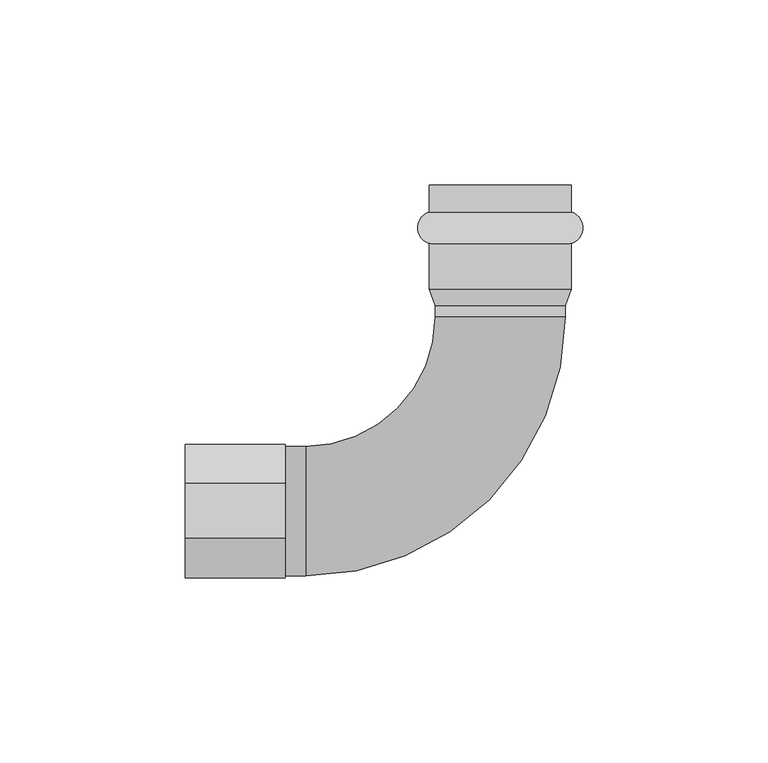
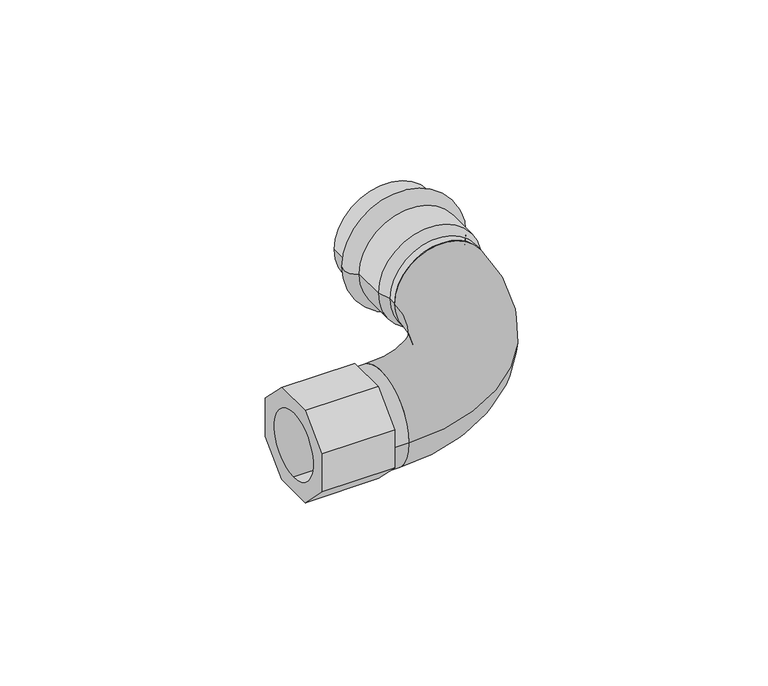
"""IFC4 building model written with IfcOpenShell, lengths in millimetres: valve geometry, Отвод_90°_с_переходом_на_внутреннюю_резьбу : Отвод_90°_с_переходом_на_внутреннюю_резьбу."""

import ifcopenshell
import ifcopenshell.guid

model = None  # the IFC model being written
_history = None  # IfcOwnerHistory: only IFC2X3 demands one
_inside = {}  # id of a spatial element -> (the spatial element, [elements in it])
_under = {}  # id of a project, library or spatial element -> (it, [spatial elements below it])
_declared = {}  # id of a project -> (the project, [libraries it declares])
_typed = {}  # id of a type object -> (the type object, [elements of that type])
_made_of = {}  # id of a material, layer set ... -> (it, [elements and type objects made of it])


def new_model(schema):
    """Start an empty IFC model of exactly this schema.

    Asked for "IFC4X3", IfcOpenShell would pick the latest addendum, in which some entities
    have other attributes; the version numbers below select the first issue.
    IFC2X3 requires an IfcOwnerHistory on every rooted entity: one is made here for all.
    """
    global model, _history
    if schema == "IFC4X3":
        model = ifcopenshell.file(schema_version=(4, 3, 0, 0))
    else:
        model = ifcopenshell.file(schema=schema)
    _inside.clear()
    _under.clear()
    _declared.clear()
    _typed.clear()
    _made_of.clear()
    _history = None
    if model.schema == "IFC2X3":
        org = make("IfcOrganization", Name="unknown")
        user = make(
            "IfcPersonAndOrganization",
            ThePerson=make("IfcPerson", FamilyName="unknown"),
            TheOrganization=org,
        )
        app = make(
            "IfcApplication",
            ApplicationDeveloper=org,
            Version="unknown",
            ApplicationFullName="unknown",
            ApplicationIdentifier="unknown",
        )
        _history = make(
            "IfcOwnerHistory",
            OwningUser=user,
            OwningApplication=app,
            ChangeAction="ADDED",
            CreationDate=0,
        )
    return model


def make(cls, **values):
    """One entity of the class cls with the attributes given. An attribute that is None is left unset."""
    return model.create_entity(
        cls, **{name: value for name, value in values.items() if value is not None}
    )


def rooted(cls, **values):
    """An entity with a GlobalId (a new one), such as an element, a storey or a relation."""
    return make(cls, GlobalId=ifcopenshell.guid.new(), OwnerHistory=_history, **values)


def si_unit(unit_type, name, prefix=None):
    """IfcSIUnit, for example si_unit("LENGTHUNIT", "METRE", prefix="MILLI")."""
    return make("IfcSIUnit", UnitType=unit_type, Prefix=prefix, Name=name)


def assignment(units):
    """IfcUnitAssignment: the units of a project."""
    return None if units is None else make("IfcUnitAssignment", Units=units)


def point(xyz):
    """IfcCartesianPoint."""
    return None if xyz is None else make("IfcCartesianPoint", Coordinates=xyz)


def direction(xyz):
    """IfcDirection."""
    return None if xyz is None else make("IfcDirection", DirectionRatios=xyz)


def frame(location, z_axis=None, x_axis=None):
    """IfcAxis2Placement3D, a coordinate frame: its origin and axes. An axis left out is left unset."""
    return make(
        "IfcAxis2Placement3D",
        Location=point(location),
        Axis=direction(z_axis),
        RefDirection=direction(x_axis),
    )


def frame_2d(location, x_axis=None):
    """IfcAxis2Placement2D, a coordinate frame in the plane: its origin and x axis."""
    return make(
        "IfcAxis2Placement2D", Location=point(location), RefDirection=direction(x_axis)
    )


def origin():
    """The frame at (0, 0, 0) with its axes left unset."""
    return frame((0.0, 0.0, 0.0))


def origin_2d():
    """The frame at (0, 0) in the plane with its x axis left unset."""
    return frame_2d((0.0, 0.0))


def place(relative_to, where):
    """IfcLocalPlacement: puts the frame where relative to a parent placement (None: the world)."""
    return make(
        "IfcLocalPlacement", PlacementRelTo=relative_to, RelativePlacement=where
    )


def context(
    kind, dimensions, precision=None, world=None, true_north=None, identifier=None
):
    """IfcGeometricRepresentationContext, for example the 3D "Model" context."""
    return make(
        "IfcGeometricRepresentationContext",
        ContextIdentifier=identifier,
        ContextType=kind,
        CoordinateSpaceDimension=dimensions,
        Precision=precision,
        WorldCoordinateSystem=world,
        TrueNorth=true_north,
    )


def project(units=None, contexts=None):
    """IfcProject with its units and contexts."""
    return rooted(
        "IfcProject",
        Name="project",
        RepresentationContexts=contexts,
        UnitsInContext=assignment(units),
    )


def spatial(cls, under=None, at=None, **own):
    """A site, building, storey or space (cls), placed at a placement, below another one or the project."""
    s = rooted(cls, ObjectPlacement=at, **own)
    if under is not None:
        _under.setdefault(under.id(), (under, []))[1].append(s)
    return s


def polyline(points):
    """IfcPolyline through the points."""
    return make("IfcPolyline", Points=[point(p) for p in points])


def circle_curve(where, radius):
    """IfcCircle in the frame where."""
    return make("IfcCircle", Position=where, Radius=radius)


def ellipse_curve(where, semi_axis1, semi_axis2):
    """IfcEllipse in the frame where."""
    return make(
        "IfcEllipse", Position=where, SemiAxis1=semi_axis1, SemiAxis2=semi_axis2
    )


def trimmed(basis, trim1, trim2, sense, master):
    """IfcTrimmedCurve: the piece of a basis curve between two trims."""
    return make(
        "IfcTrimmedCurve",
        BasisCurve=basis,
        Trim1=trim1,
        Trim2=trim2,
        SenseAgreement=sense,
        MasterRepresentation=master,
    )


def segment(curve, same_sense, transition):
    """IfcCompositeCurveSegment."""
    return make(
        "IfcCompositeCurveSegment",
        Transition=transition,
        SameSense=same_sense,
        ParentCurve=curve,
    )


def composite_curve(segments, self_intersect=None):
    """IfcCompositeCurve: segments joined end to end."""
    return make("IfcCompositeCurve", Segments=segments, SelfIntersect=self_intersect)


def outline(outer, holes=None, kind="AREA"):
    """IfcArbitraryClosedProfileDef: a profile drawn as a closed curve; with holes, ...WithVoids."""
    if holes is None:
        return make("IfcArbitraryClosedProfileDef", ProfileType=kind, OuterCurve=outer)
    return make(
        "IfcArbitraryProfileDefWithVoids",
        ProfileType=kind,
        OuterCurve=outer,
        InnerCurves=holes,
    )


def extrude(swept, where, along, depth):
    """IfcExtrudedAreaSolid: the profile swept, set in the frame where, extruded along a direction by depth."""
    return make(
        "IfcExtrudedAreaSolid",
        SweptArea=swept,
        Position=where,
        ExtrudedDirection=direction(along),
        Depth=depth,
    )


def shape(context_of_items, identifier, shape_type, items):
    """IfcShapeRepresentation: the items that make up one representation, for example the "Body"."""
    return make(
        "IfcShapeRepresentation",
        ContextOfItems=context_of_items,
        RepresentationIdentifier=identifier,
        RepresentationType=shape_type,
        Items=items,
    )


def source(mapping_origin, context_of_items, identifier, shape_type, items):
    """IfcRepresentationMap: a shape defined once, which mapped items show again and again."""
    return make(
        "IfcRepresentationMap",
        MappingOrigin=mapping_origin,
        MappedRepresentation=shape(context_of_items, identifier, shape_type, items),
    )


def transform(
    local_origin,
    x_axis=None,
    y_axis=None,
    z_axis=None,
    scale=None,
    scale2=None,
    scale3=None,
    uniform=True,
):
    """IfcCartesianTransformationOperator3D, or its non-uniform kind. x_axis, y_axis, z_axis: its Axis1, 2, 3."""
    if uniform:
        return make(
            "IfcCartesianTransformationOperator3D",
            Axis1=direction(x_axis),
            Axis2=direction(y_axis),
            LocalOrigin=point(local_origin),
            Scale=scale,
            Axis3=direction(z_axis),
        )
    return make(
        "IfcCartesianTransformationOperator3DnonUniform",
        Axis1=direction(x_axis),
        Axis2=direction(y_axis),
        LocalOrigin=point(local_origin),
        Scale=scale,
        Axis3=direction(z_axis),
        Scale2=scale2,
        Scale3=scale3,
    )


def mapped(mapping_source, mapping_target):
    """IfcMappedItem: shows the shape of a source again, moved by a transform."""
    return make(
        "IfcMappedItem", MappingSource=mapping_source, MappingTarget=mapping_target
    )


def made_of(thing, what):
    """Note that an element or type object is made of a material, layer set ...; save() writes the relation."""
    if what is not None:
        _made_of.setdefault(what.id(), (what, []))[1].append(thing)
    return thing


def element(
    cls,
    number,
    at=None,
    inside=None,
    cuts=None,
    type_object=None,
    material=None,
    context=None,
    identifier="Body",
    shape_type=None,
    held_by="IfcProductDefinitionShape",
    body=None,
    shapes=None,
    **own,
):
    """One element of the class cls, such as IfcWall. Its Tag is "e" and its number.

    at: its placement. inside: the storey or other place that contains it. cuts: it is an
    opening in that element (IfcRelVoidsElement). A single representation is given by context,
    identifier, shape_type and body (its items); several are given by shapes. held_by: the class
    of the entity that holds the representations. save() writes the other relations.
    """
    e = rooted(cls, Tag="e%d" % number, ObjectPlacement=at, **own)
    if body is not None:
        shapes = [shape(context, identifier, shape_type, body)]
    if shapes is not None:
        e.Representation = make(held_by, Representations=shapes)
    if inside is not None:
        _inside.setdefault(inside.id(), (inside, []))[1].append(e)
    if cuts is not None:
        rooted(
            "IfcRelVoidsElement", RelatingBuildingElement=cuts, RelatedOpeningElement=e
        )
    if type_object is not None:
        _typed.setdefault(type_object.id(), (type_object, []))[1].append(e)
    return made_of(e, material)


def aggregate(whole, parts):
    """IfcRelAggregates: a whole, such as a stair, and the parts it consists of."""
    return rooted("IfcRelAggregates", RelatingObject=whole, RelatedObjects=parts)


def save(model, path):
    """Write the relations noted so far, then the file.

    IfcRelAggregates (storeys below a building ...), IfcRelContainedInSpatialStructure (elements
    in a storey), IfcRelDefinesByType, IfcRelAssociatesMaterial and IfcRelDeclares: one each for
    every whole, place, type object, material and project.
    """
    for whole, parts in _under.values():
        aggregate(whole, parts)
    for where, things in _inside.values():
        rooted(
            "IfcRelContainedInSpatialStructure",
            RelatedElements=things,
            RelatingStructure=where,
        )
    for kind, things in _typed.values():
        rooted("IfcRelDefinesByType", RelatedObjects=things, RelatingType=kind)
    for what, things in _made_of.values():
        rooted("IfcRelAssociatesMaterial", RelatedObjects=things, RelatingMaterial=what)
    for by, libraries in _declared.values():
        rooted("IfcRelDeclares", RelatingContext=by, RelatedDefinitions=libraries)
    model.write(path)


def plane_surface(at):
    """IfcPlane: the flat surface through the origin of the frame at, square to its z axis."""
    return make("IfcPlane", Position=at)


def cylinder_surface(at, radius):
    """IfcCylindricalSurface: all points at the distance radius from the z axis of the frame at."""
    return make("IfcCylindricalSurface", Position=at, Radius=radius)


def revolved_surface(curve, axis_point, axis_direction):
    """IfcSurfaceOfRevolution: the curve turned about the line through axis_point along axis_direction."""
    return make(
        "IfcSurfaceOfRevolution",
        SweptCurve=make("IfcArbitraryOpenProfileDef", ProfileType="CURVE", Curve=curve),
        AxisPosition=make("IfcAxis1Placement", Location=point(axis_point), Axis=direction(axis_direction)),
    )


def advanced_brep(points, edges, surfaces, faces):
    """IfcAdvancedBrep: a solid bounded by faces that lie on surfaces and meet in shared edges.

    An edge is (start, end): straight between two places in points (the first is 0);
    or (start, end, curve); or (start, end, curve, False) where it runs against its curve.
    A face is (place in surfaces, loops), or (place, loops, False) where it looks against
    its surface's normal. A loop lists edges by number (the first is 1), with a minus sign
    where the edge is run from its end to its start. The first loop is the outer one.
    """
    corners = [point(p) for p in points]
    vertices = [make("IfcVertexPoint", VertexGeometry=c) for c in corners]
    made = []
    for start, end, *more in edges:
        made.append(
            make(
                "IfcEdgeCurve",
                EdgeStart=vertices[start],
                EdgeEnd=vertices[end],
                EdgeGeometry=more[0] if more else make("IfcPolyline", Points=[corners[start], corners[end]]),
                SameSense=more[1] if len(more) > 1 else True,
            )
        )
    hull = []
    for where, loops, *sense in faces:
        bounds = []
        for j, loop in enumerate(loops):
            ring = [make("IfcOrientedEdge", EdgeElement=made[abs(k) - 1], Orientation=k > 0) for k in loop]
            bounds.append(
                make(
                    "IfcFaceOuterBound" if j == 0 else "IfcFaceBound",
                    Bound=make("IfcEdgeLoop", EdgeList=ring),
                    Orientation=True,
                )
            )
        hull.append(make("IfcAdvancedFace", Bounds=bounds, FaceSurface=surfaces[where], SameSense=sense[0] if sense else True))
    return make("IfcAdvancedBrep", Outer=make("IfcClosedShell", CfsFaces=hull))


def valve_dc0b5abc(model_context):
    return source(origin(), model_context, "Body", "SolidModel", [
        extrude(outline(polyline([(7.4558441, -18.0), (-7.4558441, -18.0), (-18.0, -7.4558441), (-18.0, 7.4558441), (-7.4558441, 18.0), (7.4558441, 18.0), (18.0, 7.4558441), (18.0, -7.4558441), (7.4558441, -18.0)]), holes=[composite_curve([segment(trimmed(circle_curve(origin_2d(), 12.5), [point((0.0, 12.5))], [point((0.0, -12.5))], True, "CARTESIAN"), True, "CONTINUOUS"), segment(trimmed(circle_curve(origin_2d(), 12.5), [point((0.0, -12.5))], [point((0.0, 12.5))], True, "CARTESIAN"), True, "CONTINUOUS")], self_intersect=False)]), frame((-85.0, 0.0, 0.0), z_axis=(1.0, 0.0, 0.0), x_axis=(0.0, 1.0, 0.0)), (0.0, 0.0, 1.0), 27.0),
        advanced_brep(
        [(19.15, 80.74, 0.0), (-19.15, 80.74, 0.0), (-19.15, 88.0, 0.0), (19.15, 88.0, 0.0), (19.15, 72.26, 0.0), (-19.15, 72.26, 0.0), (19.15, 60.0, 0.0), (-19.15, 60.0, 0.0), (17.5, 55.47, 0.0), (-17.5, 55.47, 0.0), (17.5, 52.5, 0.0), (-17.5, 52.5, 0.0), (0.0, 52.5, 0.0), (0.0, 88.0, 0.0)],
        [
            (0, 1, circle_curve(frame((0.0, 80.74, 0.0), z_axis=(0.0, 1.0, 0.0), x_axis=(-1.0, 0.0, 0.0)), 19.15)),
            (1, 2),
            (2, 3, circle_curve(frame((0.0, 88.0, 0.0), z_axis=(0.0, -1.0, 0.0), x_axis=(-1.0, 0.0, 0.0)), 19.15)),
            (3, 0),
            (1, 0, circle_curve(frame((0.0, 80.74, 0.0), z_axis=(0.0, 1.0, 0.0), x_axis=(-1.0, 0.0, 0.0)), 19.15)),
            (3, 2, circle_curve(frame((0.0, 88.0, 0.0), z_axis=(0.0, -1.0, 0.0), x_axis=(-1.0, 0.0, 0.0)), 19.15)),
            (4, 5, circle_curve(frame((0.0, 72.26, 0.0), z_axis=(0.0, 1.0, 0.0), x_axis=(-1.0, 0.0, 0.0)), 19.15)),
            (5, 1, circle_curve(frame((-17.8504491, 76.5, 0.0), z_axis=(0.0, 0.0, -1.0), x_axis=(0.0, 1.0, 0.0)), 4.4346852)),
            (0, 4, circle_curve(frame((17.8504491, 76.5, 0.0), z_axis=(0.0, 0.0, -1.0), x_axis=(0.0, 1.0, 0.0)), 4.4346852)),
            (5, 4, circle_curve(frame((0.0, 72.26, 0.0), z_axis=(0.0, 1.0, 0.0), x_axis=(-1.0, 0.0, 0.0)), 19.15)),
            (6, 7, circle_curve(frame((0.0, 60.0, 0.0), z_axis=(0.0, 1.0, 0.0), x_axis=(-1.0, 0.0, 0.0)), 19.15)),
            (7, 5),
            (4, 6),
            (7, 6, circle_curve(frame((0.0, 60.0, 0.0), z_axis=(0.0, 1.0, 0.0), x_axis=(-1.0, 0.0, 0.0)), 19.15)),
            (8, 9, circle_curve(frame((0.0, 55.47, 0.0), z_axis=(0.0, 1.0, 0.0), x_axis=(-1.0, 0.0, 0.0)), 17.5)),
            (9, 7),
            (6, 8),
            (9, 8, circle_curve(frame((0.0, 55.47, 0.0), z_axis=(0.0, 1.0, 0.0), x_axis=(-1.0, 0.0, 0.0)), 17.5)),
            (10, 11, circle_curve(frame((0.0, 52.5, 0.0), z_axis=(0.0, 1.0, 0.0), x_axis=(-1.0, 0.0, 0.0)), 17.5)),
            (11, 9),
            (8, 10),
            (11, 10, circle_curve(frame((0.0, 52.5, 0.0), z_axis=(0.0, 1.0, 0.0), x_axis=(-1.0, 0.0, 0.0)), 17.5)),
            (12, 11),
            (10, 12),
            (2, 13),
            (13, 3),
        ],
        [
            cylinder_surface(frame((0.0, 2088.0, 0.0), z_axis=(0.0, -1.0, 0.0), x_axis=(-1.0, 0.0, 0.0)), 19.15),
            revolved_surface(trimmed(ellipse_curve(frame((-17.8504491, 76.5, 0.0), z_axis=(0.0, 0.0, 1.0), x_axis=(0.0, 1.0, 0.0)), 4.4346852, 4.4346852), [point((-19.15, 80.74, 0.0))], [point((-19.15, 72.26, 0.0))], True, "CARTESIAN"), (0.0, 2088.0, 0.0), (0.0, -1.0, 0.0)),
            revolved_surface(polyline([(-19.15, 60.0, 0.0), (-17.5, 55.47, 0.0)]), (0.0, 2088.0, 0.0), (0.0, -1.0, 0.0)),
            cylinder_surface(frame((0.0, 2088.0, 0.0), z_axis=(0.0, -1.0, 0.0), x_axis=(-1.0, 0.0, 0.0)), 17.5),
            plane_surface(frame((0.0, 52.5, 0.0), z_axis=(0.0, -1.0, 0.0), x_axis=(-1.0, 0.0, 0.0))),
            plane_surface(frame((0.0, 88.0, 0.0), z_axis=(0.0, 1.0, 0.0), x_axis=(-1.0, 0.0, 0.0))),
        ],
        [
            (0, [[1, 2, 3, 4]]),
            (0, [[5, -4, 6, -2]]),
            (1, [[7, 8, -1, 9]]),
            (1, [[10, -9, -5, -8]]),
            (0, [[11, 12, -7, 13]]),
            (0, [[14, -13, -10, -12]]),
            (2, [[15, 16, -11, 17]]),
            (2, [[18, -17, -14, -16]]),
            (3, [[19, 20, -15, 21]]),
            (3, [[22, -21, -18, -20]]),
            (4, [[23, -19, 24]]),
            (4, [[-24, -22, -23]]),
            (5, [[-3, 25, 26]]),
            (5, [[-6, -26, -25]]),
        ],
    ),
        advanced_brep(
        [(-52.5, -17.5, 0.0), (-52.5, 17.5, 0.0), (-52.5, 0.0, 0.0), (-58.0, -17.5, 0.0), (-58.0, 17.5, 0.0), (-58.0, 0.0, 0.0)],
        [
            (0, 1, circle_curve(frame((-52.5, 0.0, 0.0), z_axis=(1.0, 0.0, 0.0), x_axis=(0.0, 1.0, 0.0)), 17.5)),
            (1, 2),
            (2, 0),
            (1, 0, circle_curve(frame((-52.5, 0.0, 0.0), z_axis=(1.0, 0.0, 0.0), x_axis=(0.0, 1.0, 0.0)), 17.5)),
            (3, 4, circle_curve(frame((-58.0, 0.0, 0.0), z_axis=(1.0, 0.0, 0.0), x_axis=(0.0, 1.0, 0.0)), 17.5)),
            (4, 1),
            (0, 3),
            (4, 3, circle_curve(frame((-58.0, 0.0, 0.0), z_axis=(1.0, 0.0, 0.0), x_axis=(0.0, 1.0, 0.0)), 17.5)),
            (5, 4),
            (3, 5),
        ],
        [
            plane_surface(frame((-52.5, 0.0, 0.0), z_axis=(1.0, 0.0, 0.0), x_axis=(0.0, 1.0, 0.0))),
            cylinder_surface(frame((2000.0, 0.0, 0.0), z_axis=(-1.0, 0.0, 0.0), x_axis=(0.0, 1.0, 0.0)), 17.5),
            plane_surface(frame((-58.0, 0.0, 0.0), z_axis=(-1.0, 0.0, 0.0), x_axis=(0.0, 1.0, 0.0))),
        ],
        [
            (0, [[1, 2, 3]]),
            (0, [[4, -3, -2]]),
            (1, [[5, 6, -1, 7]]),
            (1, [[8, -7, -4, -6]]),
            (2, [[9, -5, 10]]),
            (2, [[-10, -8, -9]]),
        ],
    ),
        advanced_brep(
        [(-17.5, 52.5, 0.0), (17.5, 52.5, 0.0), (-52.5, 17.5, 0.0), (-52.5, -17.5, 0.0)],
        [
            (0, 1, circle_curve(frame((0.0, 52.5, 0.0), z_axis=(0.0, 1.0, 0.0), x_axis=(1.0, 0.0, 0.0)), 17.5)),
            (1, 0, circle_curve(frame((0.0, 52.5, 0.0), z_axis=(0.0, 1.0, 0.0), x_axis=(1.0, 0.0, 0.0)), 17.5)),
            (2, 3, circle_curve(frame((-52.5, 0.0, 0.0), z_axis=(-1.0, 0.0, 0.0), x_axis=(0.0, -1.0, 0.0)), 17.5)),
            (3, 2, circle_curve(frame((-52.5, 0.0, 0.0), z_axis=(-1.0, 0.0, 0.0), x_axis=(0.0, -1.0, 0.0)), 17.5)),
            (3, 1, circle_curve(frame((-52.5, 52.5, 0.0), z_axis=(0.0, 0.0, 1.0), x_axis=(1.0, 0.0, 0.0)), 70.0)),
            (0, 2, circle_curve(frame((-52.5, 52.5, 0.0), z_axis=(0.0, 0.0, -1.0), x_axis=(1.0, 0.0, 0.0)), 35.0)),
        ],
        [
            plane_surface(frame((0.0, 52.5, 0.0), z_axis=(0.0, 1.0, 0.0), x_axis=(0.0, 0.0, 1.0))),
            plane_surface(frame((-52.5, 0.0, 0.0), z_axis=(-1.0, 0.0, 0.0), x_axis=(0.0, 0.0, 1.0))),
            revolved_surface(trimmed(ellipse_curve(frame((0.0, 52.5, 0.0), z_axis=(0.0, 1.0, 0.0), x_axis=(1.0, 0.0, 0.0)), 17.5, 17.5), [point((-17.5, 52.5, 0.0))], [point((17.5, 52.5, 0.0))], True, "CARTESIAN"), (-52.5, 52.5, 0.0), (0.0, 0.0, -1.0)),
            revolved_surface(trimmed(ellipse_curve(frame((0.0, 52.5, 0.0), z_axis=(0.0, 1.0, 0.0), x_axis=(1.0, 0.0, 0.0)), 17.5, 17.5), [point((17.5, 52.5, 0.0))], [point((-17.5, 52.5, 0.0))], True, "CARTESIAN"), (-52.5, 52.5, 0.0), (0.0, 0.0, -1.0)),
        ],
        [
            (0, [[1, 2]]),
            (1, [[3, 4]]),
            (2, [[5, -1, 6, -4]]),
            (3, [[-6, -2, -5, -3]]),
        ],
    ),
    ])


if __name__ == "__main__":
    model = new_model("IFC4")
    model_context = context("Model", 3, world=origin())
    ifc_project = project(units=[si_unit("LENGTHUNIT", "METRE", prefix="MILLI")], contexts=[model_context])
    site = spatial("IfcSite", under=ifc_project)
    building = spatial("IfcBuilding", under=site)
    placement = place(None, origin())
    valve_shape = valve_dc0b5abc(model_context)
    element("IfcValve", 1, ObjectType="Отвод_90°_с_переходом_на_внутреннюю_резьбу : Отвод_90°_с_переходом_на_внутреннюю_резьбу", at=placement, inside=building, context=model_context, shape_type="MappedRepresentation", body=[
        mapped(valve_shape, transform((0.0, 0.0, 0.0), x_axis=(1.0, 0.0, 0.0), y_axis=(0.0, 1.0, 0.0), z_axis=(0.0, 0.0, 1.0))),
    ])
    save(model, "model.ifc")
